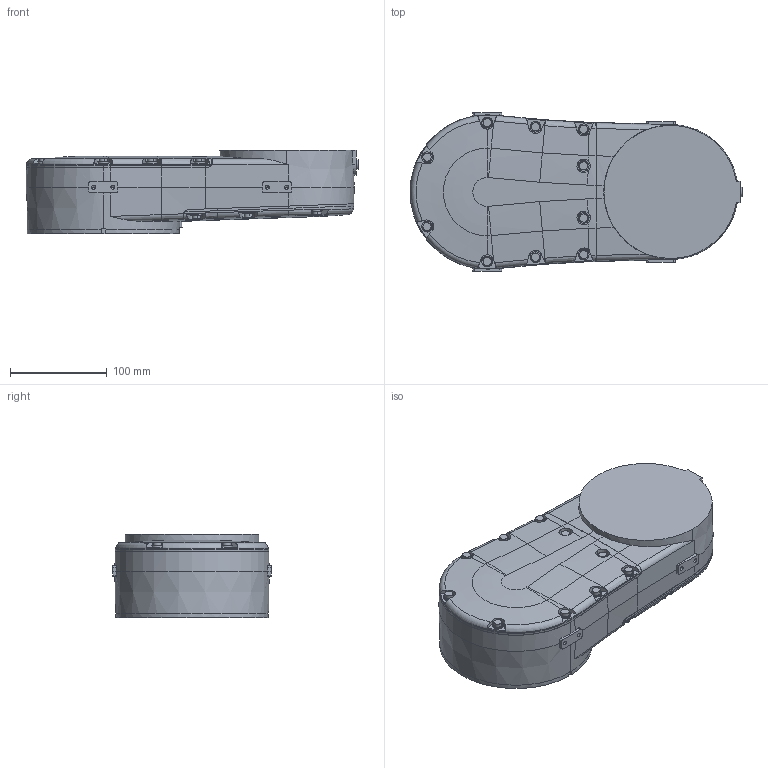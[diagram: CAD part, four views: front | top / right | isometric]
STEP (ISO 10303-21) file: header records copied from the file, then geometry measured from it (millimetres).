
FILE_DESCRIPTION (( 'STEP AP214' ), '1' );
FILE_NAME ('IRB920T_6kg-450-180-BTM_OmniCore_rev00_LINK1_CAD.step', '2021-08-23T03:23:23', ( '' ), ( '' ), 'SwSTEP 2.0', 'SolidWorks 2018', '' );
FILE_SCHEMA (( 'AUTOMOTIVE_DESIGN' ));
Length unit declared in the file: millimetre
Products named in the file (1): IRB920T_6kg-450-180-BTM_OmniCore_rev00_LINK1_CAD
Bounding box: 344 x 164 x 86 mm (x, y, z)
Volume: 3262471.1 mm3; surface area: 158291.7 mm2
Topology: 1 solids, 1 shells, 442 faces, 1126 edges, 718 vertices
Faces by surface type: plane 166, cylinder 143, cone 71, bspline 56, torus 6
Entity records: 17645 total; most frequent: CARTESIAN_POINT 7897, ORIENTED_EDGE 2220, DIRECTION 1722, EDGE_CURVE 1110, VERTEX_POINT 718, AXIS2_PLACEMENT_3D 635, EDGE_LOOP 490, VECTOR 452
